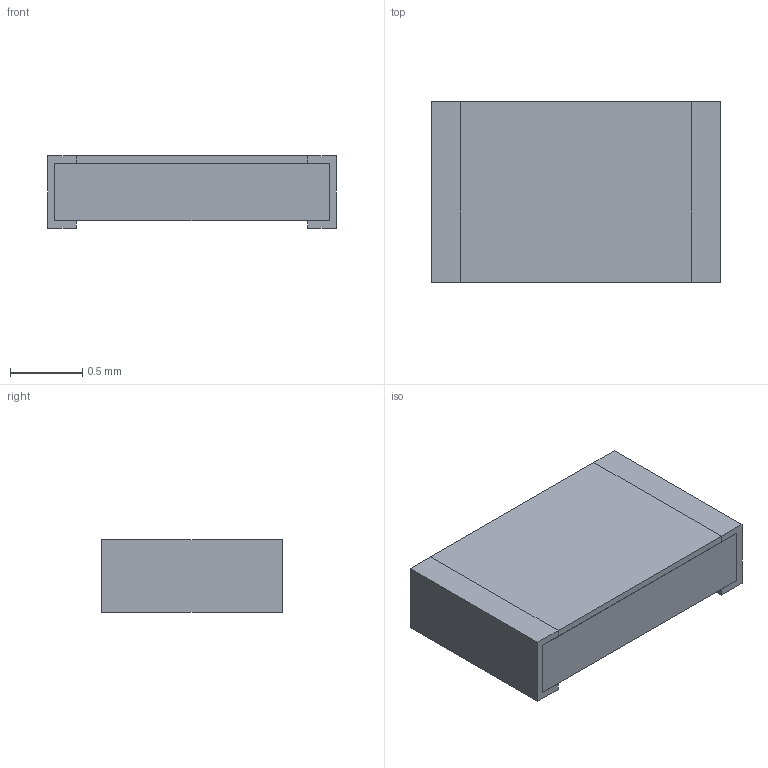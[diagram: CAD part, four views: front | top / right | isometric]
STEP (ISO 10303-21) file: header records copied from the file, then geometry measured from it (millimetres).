
FILE_DESCRIPTION(('Open CASCADE Model'),'2;1');
FILE_NAME('Open CASCADE Shape Model','2020-01-26T18:34:10',('Author'),( 'Open CASCADE'),'Open CASCADE STEP processor 6.8','Open CASCADE 6.8' ,'Unknown');
FILE_SCHEMA(('AUTOMOTIVE_DESIGN_CC2 { 1 2 10303 214 -1 1 5 4 }'));
Length unit declared in the file: millimetre
Products named in the file (5): R0805.step; Mid_Body; Terminal; Open CASCADE STEP translator 6.8 12.2.1; Mark
Assembly tree (5 placements, depth 3):
  R0805.step
    Mid_Body
    Terminal  x2
      Open CASCADE STEP translator 6.8 12.2.1
    Mark
Bounding box: 2 x 1.25 x 0.5 mm (x, y, z)
Volume: 1.2 mm3; surface area: 16 mm2
Topology: 4 solids, 4 shells, 32 faces, 72 edges, 48 vertices
Faces by surface type: plane 32
Entity records: 1331 total; most frequent: CARTESIAN_POINT 208, DIRECTION 196, LINE 140, VECTOR 140, ORIENTED_EDGE 96, PCURVE 96, DEFINITIONAL_REPRESENTATION 96, EDGE_CURVE 48
